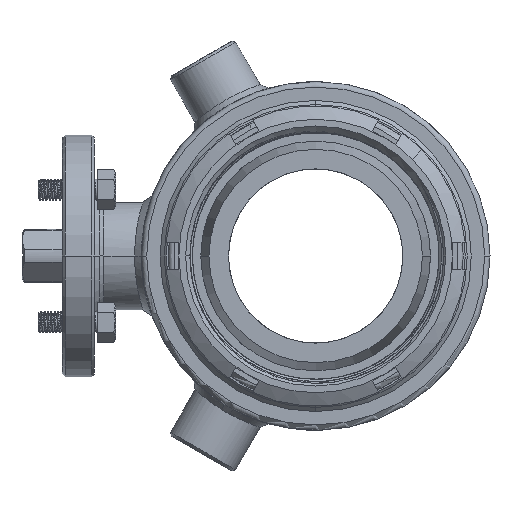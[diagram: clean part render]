
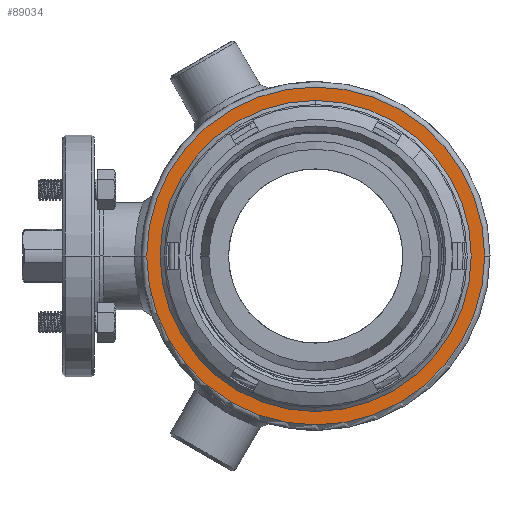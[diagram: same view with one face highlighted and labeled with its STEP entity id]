
A CAD part, left-side view. The second image highlights one B-rep face of the part: STEP entity #89034.
In plain terms, the highlighted planar face has unit normal (-1, 0, 0).
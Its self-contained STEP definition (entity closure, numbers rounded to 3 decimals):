
#35800=CARTESIAN_POINT('',(-38.,0.,0.));
#35801=DIRECTION('',(-1.,0.,0.));
#35802=DIRECTION('',(0.,-1.,0.));
#35803=AXIS2_PLACEMENT_3D('',#35800,#35801,#35802);
#35808=CARTESIAN_POINT('',(-38.,0.,0.));
#35809=DIRECTION('',(-1.,0.,0.));
#35810=DIRECTION('',(0.,1.,0.));
#35811=AXIS2_PLACEMENT_3D('',#35808,#35809,#35810);
#35816=CARTESIAN_POINT('',(-38.,0.,0.));
#35817=DIRECTION('',(1.,0.,0.));
#35818=DIRECTION('',(0.,0.,-1.));
#35819=AXIS2_PLACEMENT_3D('',#35816,#35817,#35818);
#35824=CARTESIAN_POINT('',(-38.,0.,0.));
#35825=DIRECTION('',(1.,0.,0.));
#35826=DIRECTION('',(0.,0.,1.));
#35827=AXIS2_PLACEMENT_3D('',#35824,#35825,#35826);
#66284=CARTESIAN_POINT('',(-38.,-63.,0.));
#66285=CARTESIAN_POINT('',(-38.,63.,0.));
#66286=VERTEX_POINT('',#66284);
#66287=VERTEX_POINT('',#66285);
#66702=CARTESIAN_POINT('',(-38.,0.,-58.));
#66703=CARTESIAN_POINT('',(-38.,0.,58.));
#66704=VERTEX_POINT('',#66702);
#66705=VERTEX_POINT('',#66703);
#89020=CARTESIAN_POINT('',(-38.,0.,0.));
#89021=DIRECTION('',(-1.,0.,0.));
#89022=DIRECTION('',(0.,1.,0.));
#89023=AXIS2_PLACEMENT_3D('',#89020,#89021,#89022);
#89024=PLANE('',#89023);
#89026=ORIENTED_EDGE('',*,*,#89025,.F.);
#89027=ORIENTED_EDGE('',*,*,#68977,.F.);
#89028=EDGE_LOOP('',(#89026,#89027));
#89029=FACE_OUTER_BOUND('',#89028,.F.);
#89030=ORIENTED_EDGE('',*,*,#88973,.F.);
#89031=ORIENTED_EDGE('',*,*,#88995,.F.);
#89032=EDGE_LOOP('',(#89030,#89031));
#89033=FACE_BOUND('',#89032,.F.);
#89034=ADVANCED_FACE('',(#89029,#89033),#89024,.T.);
#35804=CIRCLE('',#35803,63.);
#35812=CIRCLE('',#35811,63.);
#35820=CIRCLE('',#35819,58.);
#35828=CIRCLE('',#35827,58.);
#68977=EDGE_CURVE('',#66287,#66286,#35812,.T.);
#88973=EDGE_CURVE('',#66704,#66705,#35820,.T.);
#88995=EDGE_CURVE('',#66705,#66704,#35828,.T.);
#89025=EDGE_CURVE('',#66286,#66287,#35804,.T.);
